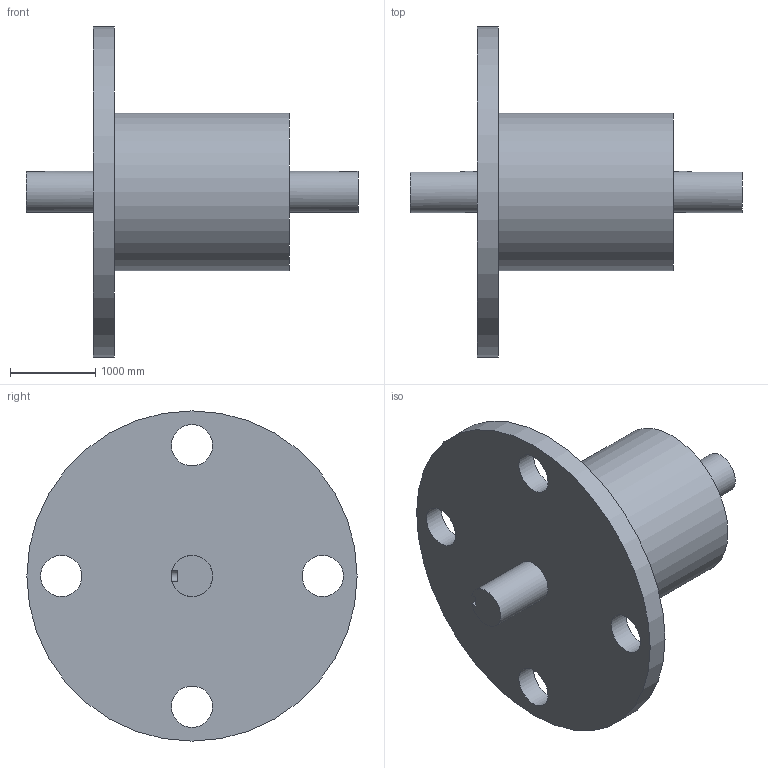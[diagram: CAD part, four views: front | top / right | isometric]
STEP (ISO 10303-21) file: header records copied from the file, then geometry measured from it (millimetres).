
FILE_DESCRIPTION(/* description */ (''),/* implementation_level */ '2;1');
FILE_NAME(/* name */ '63070.stp',/* time_stamp */ '2017-11-12T13:12:32+08:00',/* author */ (''),/* organization */ (''),/* preprocessor_version */ 'ST-DEVELOPER v16',/* originating_system */ 'SIEMENS PLM Software NX 10.0',/* authorisation */ '');
FILE_SCHEMA (('AP203_CONFIGURATION_CONTROLLED_3D_DESIGN_OF_MECHANICAL_PARTS_AND_ASSEMBLIES_MIM_LF { 1 0 10303 403 2 1 2}'));
Length unit declared in the file: millimetre
Products named in the file (1): Admi1F98F020a2yk
Bounding box: 3891.28 x 3870.96 x 3870.96 mm (x, y, z)
Volume: 8526865419.2 mm3; surface area: 41082020.4 mm2
Topology: 1 solids, 1 shells, 21 faces, 52 edges, 37 vertices
Faces by surface type: plane 11, cylinder 10
Full cylindrical faces by diameter (mm): 483.87 x6, 1851.66 x1, 3870.96 x1
Entity records: 714 total; most frequent: CARTESIAN_POINT 150, DIRECTION 100, ORIENTED_EDGE 76, AXIS2_PLACEMENT_3D 41, EDGE_LOOP 40, EDGE_CURVE 38, FACE_BOUND 30, VERTEX_POINT 30
